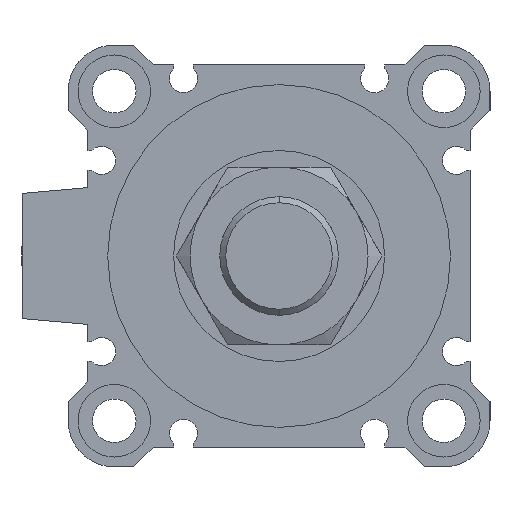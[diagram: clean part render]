
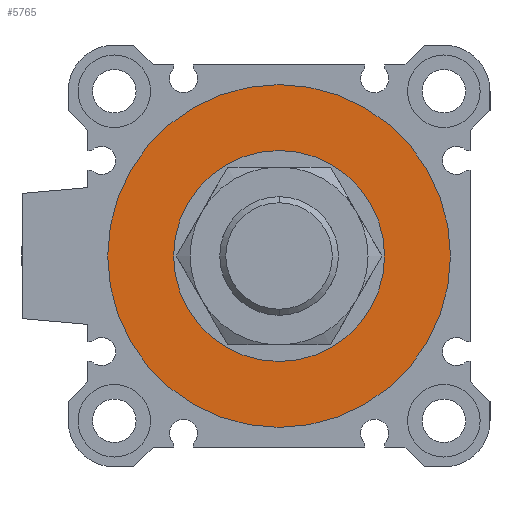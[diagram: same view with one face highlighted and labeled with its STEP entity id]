
A CAD part, left-side view. The second image highlights one B-rep face of the part: STEP entity #5765.
In plain terms, the highlighted planar face has unit normal (-1, 0, 0).
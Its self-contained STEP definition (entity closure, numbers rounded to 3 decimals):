
#250 = CIRCLE ( 'NONE', #3613, 16. ) ;
#345 = DIRECTION ( 'NONE',  ( 0., 0., -1. ) ) ;
#816 = ORIENTED_EDGE ( 'NONE', *, *, #1426, .T. ) ;
#905 = EDGE_LOOP ( 'NONE', ( #2674, #816 ) ) ;
#970 = DIRECTION ( 'NONE',  ( 0., 1., 0. ) ) ;
#1426 = EDGE_CURVE ( 'NONE', #1571, #2818, #250, .T. ) ;
#1514 = DIRECTION ( 'NONE',  ( 1., 0., 0. ) ) ;
#1520 = EDGE_LOOP ( 'NONE', ( #5798, #4566 ) ) ;
#1571 = VERTEX_POINT ( 'NONE', #6921 ) ;
#1720 = AXIS2_PLACEMENT_3D ( 'NONE', #6002, #6993, #970 ) ;
#2243 = DIRECTION ( 'NONE',  ( 0., 0., -1. ) ) ;
#2553 = DIRECTION ( 'NONE',  ( 1., 0., 0. ) ) ;
#2674 = ORIENTED_EDGE ( 'NONE', *, *, #6092, .T. ) ;
#2818 = VERTEX_POINT ( 'NONE', #5874 ) ;
#3174 = DIRECTION ( 'NONE',  ( 1., 0., 0. ) ) ;
#3179 = FACE_BOUND ( 'NONE', #905, .T. ) ;
#3417 = AXIS2_PLACEMENT_3D ( 'NONE', #5927, #3174, #345 ) ;
#3510 = VERTEX_POINT ( 'NONE', #7144 ) ;
#3588 = CIRCLE ( 'NONE', #4509, 16. ) ;
#3613 = AXIS2_PLACEMENT_3D ( 'NONE', #5648, #5612, #2243 ) ;
#3935 = EDGE_CURVE ( 'NONE', #3510, #5849, #5039, .T. ) ;
#4044 = AXIS2_PLACEMENT_3D ( 'NONE', #5540, #1514, #5146 ) ;
#4356 = DIRECTION ( 'NONE',  ( 0., 0., -1. ) ) ;
#4509 = AXIS2_PLACEMENT_3D ( 'NONE', #5515, #2553, #4356 ) ;
#4566 = ORIENTED_EDGE ( 'NONE', *, *, #6618, .F. ) ;
#4764 = PLANE ( 'NONE',  #1720 ) ;
#5039 = CIRCLE ( 'NONE', #3417, 26. ) ;
#5095 = CARTESIAN_POINT ( 'NONE',  ( 3., 0., -26. ) ) ;
#5146 = DIRECTION ( 'NONE',  ( 0., 0., -1. ) ) ;
#5515 = CARTESIAN_POINT ( 'NONE',  ( 3., 0., 0. ) ) ;
#5540 = CARTESIAN_POINT ( 'NONE',  ( 3., 0., 0. ) ) ;
#5612 = DIRECTION ( 'NONE',  ( 1., 0., 0. ) ) ;
#5648 = CARTESIAN_POINT ( 'NONE',  ( 3., 0., 0. ) ) ;
#5662 = CIRCLE ( 'NONE', #4044, 26. ) ;
#5765 = ADVANCED_FACE ( 'NONE', ( #7136, #3179 ), #4764, .F. ) ;
#5798 = ORIENTED_EDGE ( 'NONE', *, *, #3935, .F. ) ;
#5849 = VERTEX_POINT ( 'NONE', #5095 ) ;
#5874 = CARTESIAN_POINT ( 'NONE',  ( 3., 0., 16. ) ) ;
#5927 = CARTESIAN_POINT ( 'NONE',  ( 3., 0., 0. ) ) ;
#6002 = CARTESIAN_POINT ( 'NONE',  ( 3., 0., 0. ) ) ;
#6092 = EDGE_CURVE ( 'NONE', #2818, #1571, #3588, .T. ) ;
#6618 = EDGE_CURVE ( 'NONE', #5849, #3510, #5662, .T. ) ;
#6921 = CARTESIAN_POINT ( 'NONE',  ( 3., 0., -16. ) ) ;
#6993 = DIRECTION ( 'NONE',  ( 1., 0., 0. ) ) ;
#7136 = FACE_OUTER_BOUND ( 'NONE', #1520, .T. ) ;
#7144 = CARTESIAN_POINT ( 'NONE',  ( 3., 0., 26. ) ) ;
